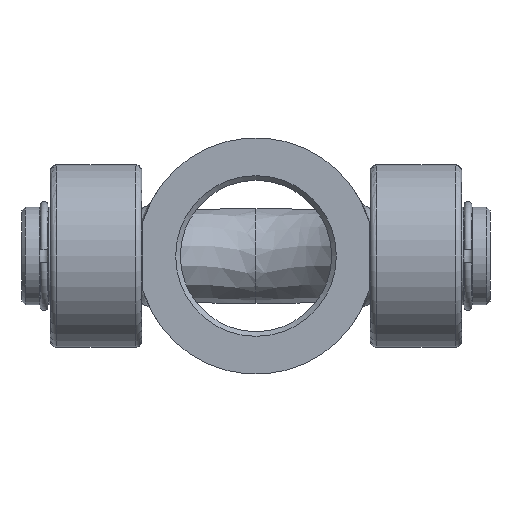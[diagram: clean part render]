
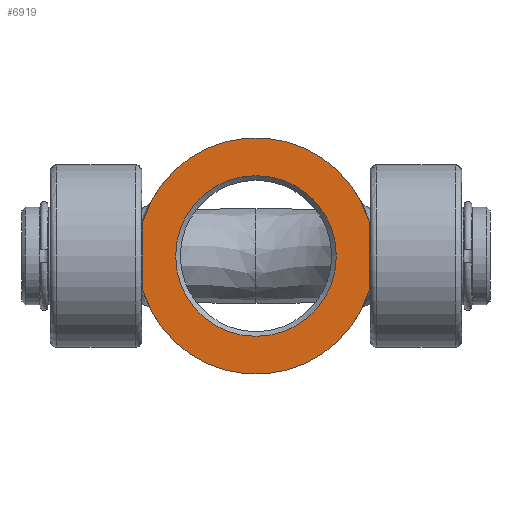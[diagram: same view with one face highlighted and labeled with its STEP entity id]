
A CAD part, front view. The second image highlights one B-rep face of the part: STEP entity #6919.
In plain terms, the highlighted planar face has unit normal (0, -1, 0) as drawn and (0, 0, -1) by its records, which use the part's own axes.
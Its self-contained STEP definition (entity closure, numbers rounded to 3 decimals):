
#305=LINE('',#9659,#696);
#309=LINE('',#10017,#700);
#696=VECTOR('',#7952,10.);
#700=VECTOR('',#8026,10.);
#1497=PLANE('',#7380);
#1740=FACE_BOUND('',#2221,.T.);
#1804=FACE_OUTER_BOUND('',#2220,.T.);
#2220=EDGE_LOOP('',(#4764,#4765,#4766,#4767));
#2221=EDGE_LOOP('',(#4768));
#2649=CIRCLE('',#7379,25.5);
#2650=CIRCLE('',#7381,37.5);
#2651=CIRCLE('',#7382,37.5);
#2837=VERTEX_POINT('',#9656);
#2838=VERTEX_POINT('',#9658);
#2867=VERTEX_POINT('',#10011);
#2868=VERTEX_POINT('',#10014);
#2869=VERTEX_POINT('',#10016);
#3586=EDGE_CURVE('',#2838,#2837,#305,.T.);
#3624=EDGE_CURVE('',#2867,#2867,#2649,.T.);
#3625=EDGE_CURVE('',#2837,#2868,#2650,.T.);
#3626=EDGE_CURVE('',#2868,#2869,#309,.T.);
#3627=EDGE_CURVE('',#2869,#2838,#2651,.T.);
#4764=ORIENTED_EDGE('',*,*,#3586,.T.);
#4765=ORIENTED_EDGE('',*,*,#3625,.T.);
#4766=ORIENTED_EDGE('',*,*,#3626,.T.);
#4767=ORIENTED_EDGE('',*,*,#3627,.T.);
#4768=ORIENTED_EDGE('',*,*,#3624,.F.);
#6919=ADVANCED_FACE('',(#1804,#1740),#1497,.F.);
#7379=AXIS2_PLACEMENT_3D('',#10012,#8020,#8021);
#7380=AXIS2_PLACEMENT_3D('',#10013,#8022,#8023);
#7381=AXIS2_PLACEMENT_3D('',#10015,#8024,#8025);
#7382=AXIS2_PLACEMENT_3D('',#10018,#8027,#8028);
#7952=DIRECTION('',(1.,0.,0.));
#8020=DIRECTION('center_axis',(0.,0.,-1.));
#8021=DIRECTION('ref_axis',(1.,0.,0.));
#8022=DIRECTION('center_axis',(0.,0.,1.));
#8023=DIRECTION('ref_axis',(1.,0.,0.));
#8024=DIRECTION('center_axis',(0.,0.,-1.));
#8025=DIRECTION('ref_axis',(-1.,0.,0.));
#8026=DIRECTION('',(-1.,0.,0.));
#8027=DIRECTION('center_axis',(0.,0.,-1.));
#8028=DIRECTION('ref_axis',(-1.,0.,0.));
#9656=CARTESIAN_POINT('',(10.5,36.,0.));
#9658=CARTESIAN_POINT('',(-10.5,36.,0.));
#9659=CARTESIAN_POINT('',(5.25,36.,0.));
#10011=CARTESIAN_POINT('',(-25.5,0.,0.));
#10012=CARTESIAN_POINT('Origin',(0.,0.,0.));
#10013=CARTESIAN_POINT('Origin',(0.,0.,
0.));
#10014=CARTESIAN_POINT('',(10.5,-36.,0.));
#10015=CARTESIAN_POINT('Origin',(0.,0.,0.));
#10016=CARTESIAN_POINT('',(-10.5,-36.,0.));
#10017=CARTESIAN_POINT('',(-5.25,-36.,0.));
#10018=CARTESIAN_POINT('Origin',(0.,0.,0.));
